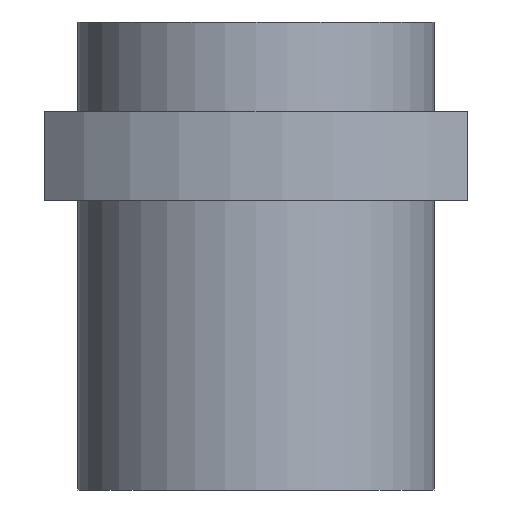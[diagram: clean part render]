
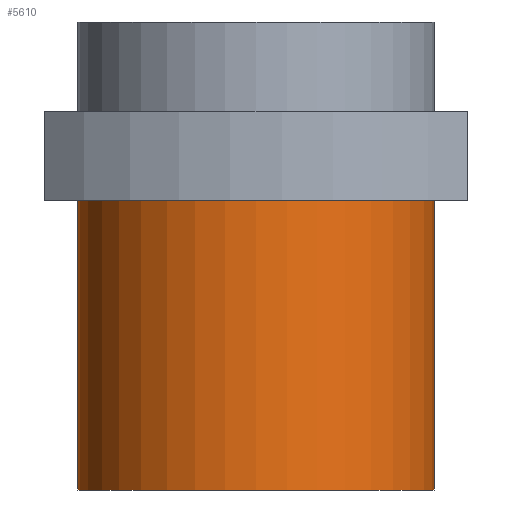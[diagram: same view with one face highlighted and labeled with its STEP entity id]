
A CAD part, left-side view. The second image highlights one B-rep face of the part: STEP entity #5610.
In plain terms, the highlighted cylindrical face has radius 16 mm (diameter 32 mm), a full revolution.
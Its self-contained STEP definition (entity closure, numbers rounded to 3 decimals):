
#83=CYLINDRICAL_SURFACE('',#5977,16.);
#111=CIRCLE('',#5964,16.);
#120=CIRCLE('',#5978,16.);
#1713=ORIENTED_EDGE('',*,*,#3325,.T.);
#1714=ORIENTED_EDGE('',*,*,#3314,.T.);
#3314=EDGE_CURVE('',#4120,#4120,#111,.F.);
#3325=EDGE_CURVE('',#4129,#4129,#120,.T.);
#4120=VERTEX_POINT('',#8906);
#4129=VERTEX_POINT('',#8931);
#4592=EDGE_LOOP('',(#1713));
#4593=EDGE_LOOP('',(#1714));
#5000=FACE_BOUND('',#4592,.T.);
#5001=FACE_BOUND('',#4593,.T.);
#5610=ADVANCED_FACE('',(#5000,#5001),#83,.T.);
#5964=AXIS2_PLACEMENT_3D('',#8905,#6480,#6481);
#5977=AXIS2_PLACEMENT_3D('',#8929,#6508,#6509);
#5978=AXIS2_PLACEMENT_3D('',#8930,#6510,#6511);
#6480=DIRECTION('',(0.,0.,1.));
#6481=DIRECTION('',(0.,1.,0.));
#6508=DIRECTION('',(0.,0.,1.));
#6509=DIRECTION('',(0.,1.,0.));
#6510=DIRECTION('',(0.,0.,1.));
#6511=DIRECTION('',(0.,1.,0.));
#8905=CARTESIAN_POINT('',(0.,0.,-8.));
#8906=CARTESIAN_POINT('',(0.,16.,-8.));
#8929=CARTESIAN_POINT('',(0.,0.,-34.));
#8930=CARTESIAN_POINT('',(0.,0.,-34.));
#8931=CARTESIAN_POINT('',(0.,16.,-34.));
